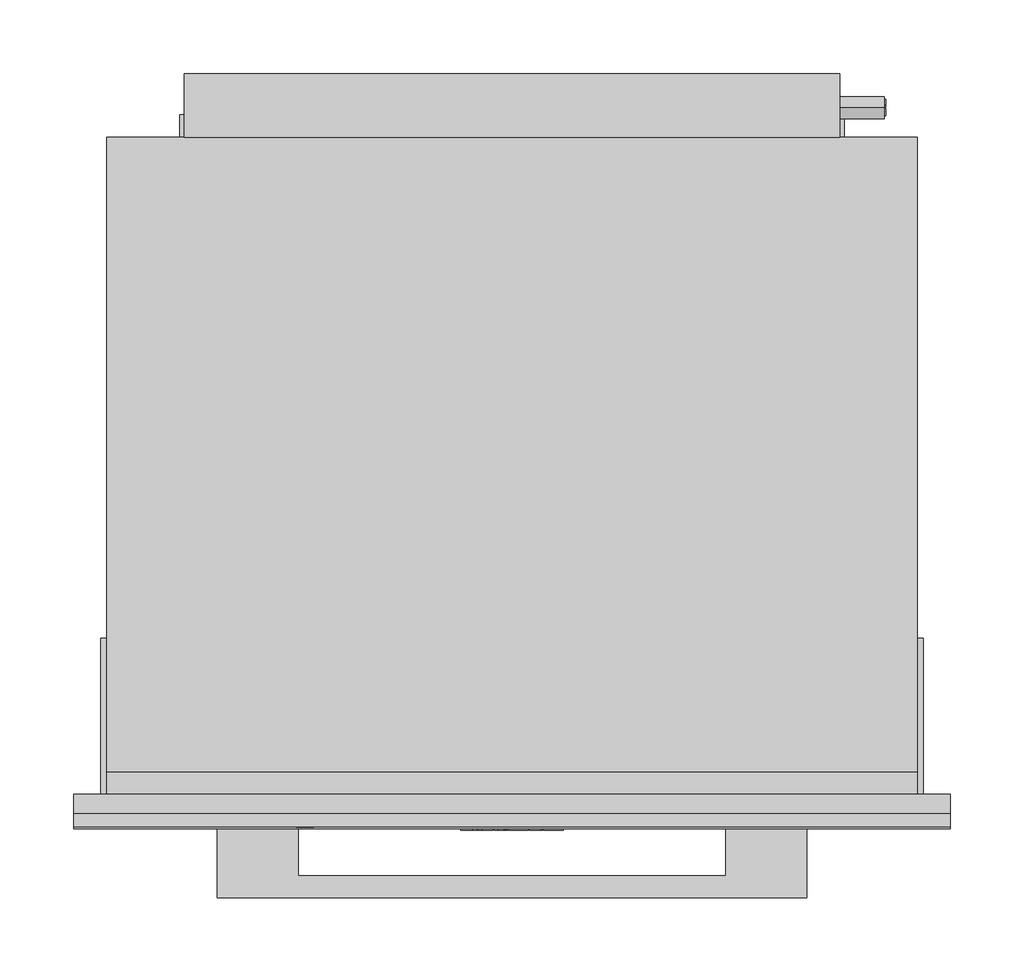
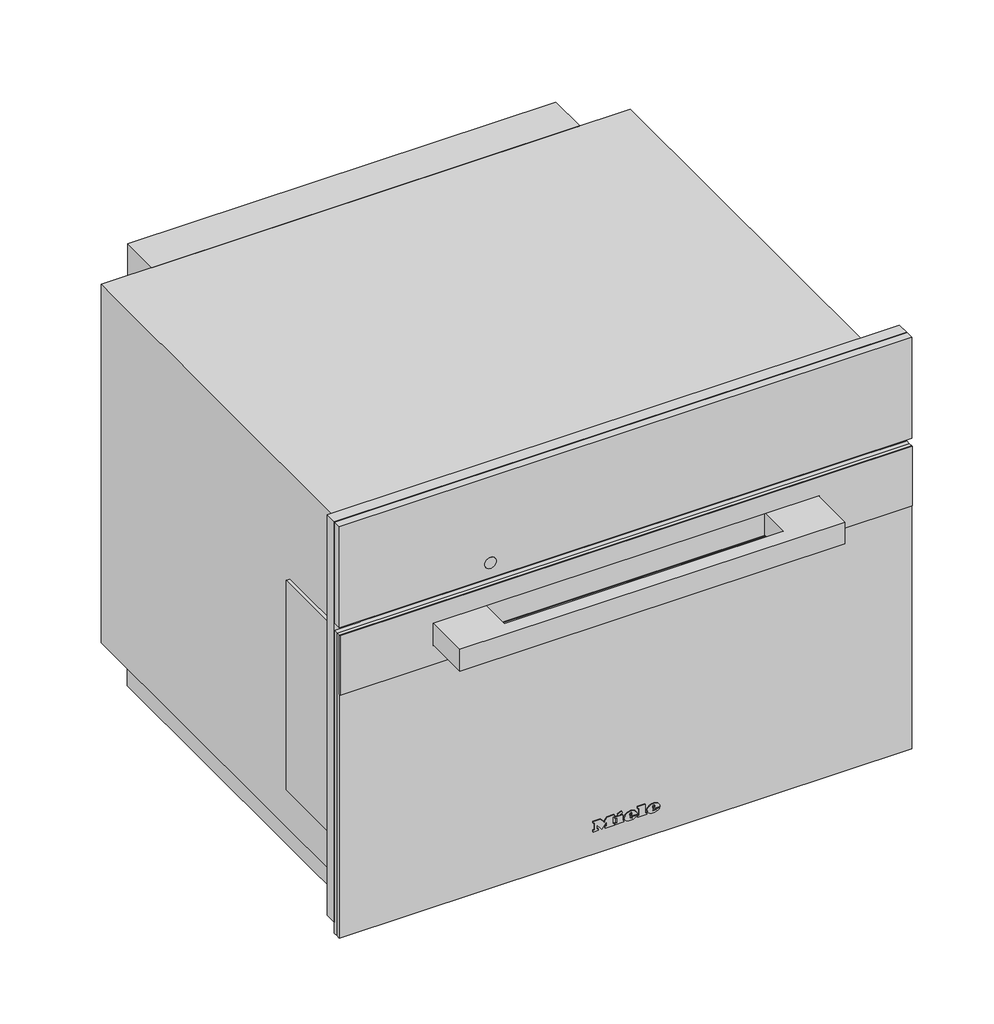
# Not in any storey: 1 proxy.
"""IFC4 building model written with IfcOpenShell, lengths in millimetres."""

import ifcopenshell
import ifcopenshell.guid

model = None  # the IFC model being written
_history = None  # IfcOwnerHistory: only IFC2X3 demands one
_inside = {}  # id of a spatial element -> (the spatial element, [elements in it])
_under = {}  # id of a project, library or spatial element -> (it, [spatial elements below it])
_declared = {}  # id of a project -> (the project, [libraries it declares])
_typed = {}  # id of a type object -> (the type object, [elements of that type])
_made_of = {}  # id of a material, layer set ... -> (it, [elements and type objects made of it])


def new_model(schema):
    """Start an empty IFC model of exactly this schema.

    Asked for "IFC4X3", IfcOpenShell would pick the latest addendum, in which some entities
    have other attributes; the version numbers below select the first issue.
    IFC2X3 requires an IfcOwnerHistory on every rooted entity: one is made here for all.
    """
    global model, _history
    if schema == "IFC4X3":
        model = ifcopenshell.file(schema_version=(4, 3, 0, 0))
    else:
        model = ifcopenshell.file(schema=schema)
    _inside.clear()
    _under.clear()
    _declared.clear()
    _typed.clear()
    _made_of.clear()
    _history = None
    if model.schema == "IFC2X3":
        org = make("IfcOrganization", Name="unknown")
        user = make(
            "IfcPersonAndOrganization",
            ThePerson=make("IfcPerson", FamilyName="unknown"),
            TheOrganization=org,
        )
        app = make(
            "IfcApplication",
            ApplicationDeveloper=org,
            Version="unknown",
            ApplicationFullName="unknown",
            ApplicationIdentifier="unknown",
        )
        _history = make(
            "IfcOwnerHistory",
            OwningUser=user,
            OwningApplication=app,
            ChangeAction="ADDED",
            CreationDate=0,
        )
    return model


def make(cls, **values):
    """One entity of the class cls with the attributes given. An attribute that is None is left unset."""
    return model.create_entity(
        cls, **{name: value for name, value in values.items() if value is not None}
    )


def rooted(cls, **values):
    """An entity with a GlobalId (a new one), such as an element, a storey or a relation."""
    return make(cls, GlobalId=ifcopenshell.guid.new(), OwnerHistory=_history, **values)


def si_unit(unit_type, name, prefix=None):
    """IfcSIUnit, for example si_unit("LENGTHUNIT", "METRE", prefix="MILLI")."""
    return make("IfcSIUnit", UnitType=unit_type, Prefix=prefix, Name=name)


def assignment(units):
    """IfcUnitAssignment: the units of a project."""
    return None if units is None else make("IfcUnitAssignment", Units=units)


def point(xyz):
    """IfcCartesianPoint."""
    return None if xyz is None else make("IfcCartesianPoint", Coordinates=xyz)


def direction(xyz):
    """IfcDirection."""
    return None if xyz is None else make("IfcDirection", DirectionRatios=xyz)


def frame(location, z_axis=None, x_axis=None):
    """IfcAxis2Placement3D, a coordinate frame: its origin and axes. An axis left out is left unset."""
    return make(
        "IfcAxis2Placement3D",
        Location=point(location),
        Axis=direction(z_axis),
        RefDirection=direction(x_axis),
    )


def frame_2d(location, x_axis=None):
    """IfcAxis2Placement2D, a coordinate frame in the plane: its origin and x axis."""
    return make(
        "IfcAxis2Placement2D", Location=point(location), RefDirection=direction(x_axis)
    )


def origin():
    """The frame at (0, 0, 0) with its axes left unset."""
    return frame((0.0, 0.0, 0.0))


def origin_with_axes():
    """The frame at (0, 0, 0) with the z axis (0, 0, 1) and the x axis (1, 0, 0) written out."""
    return frame((0.0, 0.0, 0.0), z_axis=(0.0, 0.0, 1.0), x_axis=(1.0, 0.0, 0.0))


def place(relative_to, where):
    """IfcLocalPlacement: puts the frame where relative to a parent placement (None: the world)."""
    return make(
        "IfcLocalPlacement", PlacementRelTo=relative_to, RelativePlacement=where
    )


def context(
    kind, dimensions, precision=None, world=None, true_north=None, identifier=None
):
    """IfcGeometricRepresentationContext, for example the 3D "Model" context."""
    return make(
        "IfcGeometricRepresentationContext",
        ContextIdentifier=identifier,
        ContextType=kind,
        CoordinateSpaceDimension=dimensions,
        Precision=precision,
        WorldCoordinateSystem=world,
        TrueNorth=true_north,
    )


def project(units=None, contexts=None):
    """IfcProject with its units and contexts."""
    return rooted(
        "IfcProject",
        Name="project",
        RepresentationContexts=contexts,
        UnitsInContext=assignment(units),
    )


def spatial(cls, under=None, at=None, **own):
    """A site, building, storey or space (cls), placed at a placement, below another one or the project."""
    s = rooted(cls, ObjectPlacement=at, **own)
    if under is not None:
        _under.setdefault(under.id(), (under, []))[1].append(s)
    return s


def polyline(points):
    """IfcPolyline through the points."""
    return make("IfcPolyline", Points=[point(p) for p in points])


def circle_curve(where, radius):
    """IfcCircle in the frame where."""
    return make("IfcCircle", Position=where, Radius=radius)


def ellipse_curve(where, semi_axis1, semi_axis2):
    """IfcEllipse in the frame where."""
    return make(
        "IfcEllipse", Position=where, SemiAxis1=semi_axis1, SemiAxis2=semi_axis2
    )


def trimmed(basis, trim1, trim2, sense, master):
    """IfcTrimmedCurve: the piece of a basis curve between two trims."""
    return make(
        "IfcTrimmedCurve",
        BasisCurve=basis,
        Trim1=trim1,
        Trim2=trim2,
        SenseAgreement=sense,
        MasterRepresentation=master,
    )


def segment(curve, same_sense, transition):
    """IfcCompositeCurveSegment."""
    return make(
        "IfcCompositeCurveSegment",
        Transition=transition,
        SameSense=same_sense,
        ParentCurve=curve,
    )


def composite_curve(segments, self_intersect=None):
    """IfcCompositeCurve: segments joined end to end."""
    return make("IfcCompositeCurve", Segments=segments, SelfIntersect=self_intersect)


def outline(outer, holes=None, kind="AREA"):
    """IfcArbitraryClosedProfileDef: a profile drawn as a closed curve; with holes, ...WithVoids."""
    if holes is None:
        return make("IfcArbitraryClosedProfileDef", ProfileType=kind, OuterCurve=outer)
    return make(
        "IfcArbitraryProfileDefWithVoids",
        ProfileType=kind,
        OuterCurve=outer,
        InnerCurves=holes,
    )


def extrude(swept, where, along, depth):
    """IfcExtrudedAreaSolid: the profile swept, set in the frame where, extruded along a direction by depth."""
    return make(
        "IfcExtrudedAreaSolid",
        SweptArea=swept,
        Position=where,
        ExtrudedDirection=direction(along),
        Depth=depth,
    )


def faces_of(points, faces, orient=None, outer=None):
    """IfcFace entities. A face is a list of loops; a loop is a list of indices into points, from 0.

    orient and outer hold one flag for each loop. By default every Orientation is true, the
    first loop of a face is its IfcFaceOuterBound and the others are IfcFaceBound.
    """
    made = []
    for i, loops in enumerate(faces):
        bounds = []
        for j, loop in enumerate(loops):
            is_outer = j == 0 if outer is None else outer[i][j]
            bounds.append(
                make(
                    "IfcFaceOuterBound" if is_outer else "IfcFaceBound",
                    Bound=make("IfcPolyLoop", Polygon=[points[k] for k in loop]),
                    Orientation=True if orient is None else orient[i][j],
                )
            )
        made.append(make("IfcFace", Bounds=bounds))
    return made


def faceted_brep(points, faces, orient=None, outer=None, voids=None):
    """IfcFacetedBrep: a solid bounded by flat faces; with voids (closed shells), ...WithVoids."""
    shared = [point(p) for p in points]
    hull = make("IfcClosedShell", CfsFaces=faces_of(shared, faces, orient, outer))
    if voids is None:
        return make("IfcFacetedBrep", Outer=hull)
    return make(
        "IfcFacetedBrepWithVoids",
        Outer=hull,
        Voids=[
            make(cls, CfsFaces=faces_of(shared, fs, o, b)) for cls, fs, o, b in voids
        ],
    )


def shape(context_of_items, identifier, shape_type, items):
    """IfcShapeRepresentation: the items that make up one representation, for example the "Body"."""
    return make(
        "IfcShapeRepresentation",
        ContextOfItems=context_of_items,
        RepresentationIdentifier=identifier,
        RepresentationType=shape_type,
        Items=items,
    )


def source(mapping_origin, context_of_items, identifier, shape_type, items):
    """IfcRepresentationMap: a shape defined once, which mapped items show again and again."""
    return make(
        "IfcRepresentationMap",
        MappingOrigin=mapping_origin,
        MappedRepresentation=shape(context_of_items, identifier, shape_type, items),
    )


def transform(
    local_origin,
    x_axis=None,
    y_axis=None,
    z_axis=None,
    scale=None,
    scale2=None,
    scale3=None,
    uniform=True,
):
    """IfcCartesianTransformationOperator3D, or its non-uniform kind. x_axis, y_axis, z_axis: its Axis1, 2, 3."""
    if uniform:
        return make(
            "IfcCartesianTransformationOperator3D",
            Axis1=direction(x_axis),
            Axis2=direction(y_axis),
            LocalOrigin=point(local_origin),
            Scale=scale,
            Axis3=direction(z_axis),
        )
    return make(
        "IfcCartesianTransformationOperator3DnonUniform",
        Axis1=direction(x_axis),
        Axis2=direction(y_axis),
        LocalOrigin=point(local_origin),
        Scale=scale,
        Axis3=direction(z_axis),
        Scale2=scale2,
        Scale3=scale3,
    )


def mapped(mapping_source, mapping_target):
    """IfcMappedItem: shows the shape of a source again, moved by a transform."""
    return make(
        "IfcMappedItem", MappingSource=mapping_source, MappingTarget=mapping_target
    )


def made_of(thing, what):
    """Note that an element or type object is made of a material, layer set ...; save() writes the relation."""
    if what is not None:
        _made_of.setdefault(what.id(), (what, []))[1].append(thing)
    return thing


def element(
    cls,
    number,
    at=None,
    inside=None,
    cuts=None,
    type_object=None,
    material=None,
    context=None,
    identifier="Body",
    shape_type=None,
    held_by="IfcProductDefinitionShape",
    body=None,
    shapes=None,
    **own,
):
    """One element of the class cls, such as IfcWall. Its Tag is "e" and its number.

    at: its placement. inside: the storey or other place that contains it. cuts: it is an
    opening in that element (IfcRelVoidsElement). A single representation is given by context,
    identifier, shape_type and body (its items); several are given by shapes. held_by: the class
    of the entity that holds the representations. save() writes the other relations.
    """
    e = rooted(cls, Tag="e%d" % number, ObjectPlacement=at, **own)
    if body is not None:
        shapes = [shape(context, identifier, shape_type, body)]
    if shapes is not None:
        e.Representation = make(held_by, Representations=shapes)
    if inside is not None:
        _inside.setdefault(inside.id(), (inside, []))[1].append(e)
    if cuts is not None:
        rooted(
            "IfcRelVoidsElement", RelatingBuildingElement=cuts, RelatedOpeningElement=e
        )
    if type_object is not None:
        _typed.setdefault(type_object.id(), (type_object, []))[1].append(e)
    return made_of(e, material)


def aggregate(whole, parts):
    """IfcRelAggregates: a whole, such as a stair, and the parts it consists of."""
    return rooted("IfcRelAggregates", RelatingObject=whole, RelatedObjects=parts)


def save(model, path):
    """Write the relations noted so far, then the file.

    IfcRelAggregates (storeys below a building ...), IfcRelContainedInSpatialStructure (elements
    in a storey), IfcRelDefinesByType, IfcRelAssociatesMaterial and IfcRelDeclares: one each for
    every whole, place, type object, material and project.
    """
    for whole, parts in _under.values():
        aggregate(whole, parts)
    for where, things in _inside.values():
        rooted(
            "IfcRelContainedInSpatialStructure",
            RelatedElements=things,
            RelatingStructure=where,
        )
    for kind, things in _typed.values():
        rooted("IfcRelDefinesByType", RelatedObjects=things, RelatingType=kind)
    for what, things in _made_of.values():
        rooted("IfcRelAssociatesMaterial", RelatedObjects=things, RelatingMaterial=what)
    for by, libraries in _declared.values():
        rooted("IfcRelDeclares", RelatingContext=by, RelatedDefinitions=libraries)
    model.write(path)


def plane_surface(at):
    """IfcPlane: the flat surface through the origin of the frame at, square to its z axis."""
    return make("IfcPlane", Position=at)


def cylinder_surface(at, radius):
    """IfcCylindricalSurface: all points at the distance radius from the z axis of the frame at."""
    return make("IfcCylindricalSurface", Position=at, Radius=radius)


def revolved_surface(curve, axis_point, axis_direction):
    """IfcSurfaceOfRevolution: the curve turned about the line through axis_point along axis_direction."""
    return make(
        "IfcSurfaceOfRevolution",
        SweptCurve=make("IfcArbitraryOpenProfileDef", ProfileType="CURVE", Curve=curve),
        AxisPosition=make("IfcAxis1Placement", Location=point(axis_point), Axis=direction(axis_direction)),
    )


def extruded_surface(curve, direction_of_extrusion, depth):
    """IfcSurfaceOfLinearExtrusion: the curve pushed along a direction by depth."""
    return make(
        "IfcSurfaceOfLinearExtrusion",
        SweptCurve=make("IfcArbitraryOpenProfileDef", ProfileType="CURVE", Curve=curve),
        ExtrudedDirection=direction(direction_of_extrusion),
        Depth=depth,
    )


def advanced_brep(points, edges, surfaces, faces):
    """IfcAdvancedBrep: a solid bounded by faces that lie on surfaces and meet in shared edges.

    An edge is (start, end): straight between two places in points (the first is 0);
    or (start, end, curve); or (start, end, curve, False) where it runs against its curve.
    A face is (place in surfaces, loops), or (place, loops, False) where it looks against
    its surface's normal. A loop lists edges by number (the first is 1), with a minus sign
    where the edge is run from its end to its start. The first loop is the outer one.
    """
    corners = [point(p) for p in points]
    vertices = [make("IfcVertexPoint", VertexGeometry=c) for c in corners]
    made = []
    for start, end, *more in edges:
        made.append(
            make(
                "IfcEdgeCurve",
                EdgeStart=vertices[start],
                EdgeEnd=vertices[end],
                EdgeGeometry=more[0] if more else make("IfcPolyline", Points=[corners[start], corners[end]]),
                SameSense=more[1] if len(more) > 1 else True,
            )
        )
    hull = []
    for where, loops, *sense in faces:
        bounds = []
        for j, loop in enumerate(loops):
            ring = [make("IfcOrientedEdge", EdgeElement=made[abs(k) - 1], Orientation=k > 0) for k in loop]
            bounds.append(
                make(
                    "IfcFaceOuterBound" if j == 0 else "IfcFaceBound",
                    Bound=make("IfcEdgeLoop", EdgeList=ring),
                    Orientation=True,
                )
            )
        hull.append(make("IfcAdvancedFace", Bounds=bounds, FaceSurface=surfaces[where], SameSense=sense[0] if sense else True))
    return make("IfcAdvancedBrep", Outer=make("IfcClosedShell", CfsFaces=hull))


def specialty_equipment_d85db7c3(model_context):
    return source(origin(), model_context, "Body", "SolidModel", [
        extrude(outline(polyline([(456.0, 297.5), (456.0, -297.5), (16.0, -297.5), (16.0, 297.5), (456.0, 297.5)]), holes=[polyline([(347.0, -270.0), (347.0, 270.0), (40.0, 270.0), (40.0, -270.0), (347.0, -270.0)])]), frame((0.0, -13.0, 0.0), z_axis=(0.0, 1.0, 0.0), x_axis=(0.0, 0.0, 1.0)), (0.0, 0.0, 1.0), 13.0),
        extrude(outline(composite_curve([segment(trimmed(circle_curve(frame_2d((251.5, 37.5)), 10.5), [point((251.5, 27.0))], [point((251.5, 48.0))], False, "CARTESIAN"), True, "CONTINUOUS"), segment(trimmed(circle_curve(frame_2d((251.5, 37.5)), 10.5), [point((251.5, 48.0))], [point((251.5, 27.0))], False, "CARTESIAN"), True, "CONTINUOUS")], self_intersect=False)), origin_with_axes(), (0.0, 0.0, 1.0), 3.0),
        extrude(outline(composite_curve([segment(trimmed(circle_curve(frame_2d((251.5, 397.5)), 10.5), [point((251.5, 387.0))], [point((251.5, 408.0))], False, "CARTESIAN"), True, "CONTINUOUS"), segment(trimmed(circle_curve(frame_2d((251.5, 397.5)), 10.5), [point((251.5, 408.0))], [point((251.5, 387.0))], False, "CARTESIAN"), True, "CONTINUOUS")], self_intersect=False)), origin_with_axes(), (0.0, 0.0, 1.0), 3.0),
        extrude(outline(composite_curve([segment(trimmed(circle_curve(frame_2d((-251.5, 397.5)), 10.5), [point((-251.5, 387.0))], [point((-251.5, 408.0))], False, "CARTESIAN"), True, "CONTINUOUS"), segment(trimmed(circle_curve(frame_2d((-251.5, 397.5)), 10.5), [point((-251.5, 408.0))], [point((-251.5, 387.0))], False, "CARTESIAN"), True, "CONTINUOUS")], self_intersect=False)), origin_with_axes(), (0.0, 0.0, 1.0), 3.0),
        extrude(outline(composite_curve([segment(trimmed(circle_curve(frame_2d((-251.5, 37.5)), 10.5), [point((-251.5, 27.0))], [point((-251.5, 48.0))], False, "CARTESIAN"), True, "CONTINUOUS"), segment(trimmed(circle_curve(frame_2d((-251.5, 37.5)), 10.5), [point((-251.5, 48.0))], [point((-251.5, 27.0))], False, "CARTESIAN"), True, "CONTINUOUS")], self_intersect=False)), origin_with_axes(), (0.0, 0.0, 1.0), 3.0),
        extrude(outline(polyline([(115.0, 330.0), (115.0, 130.0), (-115.0, 130.0), (-115.0, 330.0), (115.0, 330.0)])), frame((0.0, 0.0, 11.0), z_axis=(0.0, 0.0, 1.0), x_axis=(1.0, 0.0, 0.0)), (0.0, 0.0, 1.0), 26.0),
        extrude(outline(composite_curve([segment(trimmed(circle_curve(frame_2d((466.0, 369.0)), 7.5), [point((466.0, 361.5))], [point((466.0, 376.5))], False, "CARTESIAN"), True, "CONTINUOUS"), segment(trimmed(circle_curve(frame_2d((466.0, 369.0)), 7.5), [point((466.0, 376.5))], [point((466.0, 361.5))], False, "CARTESIAN"), True, "CONTINUOUS")], self_intersect=False)), frame((222.5, 0.0, 0.0), z_axis=(1.0, 0.0, 0.0), x_axis=(0.0, 1.0, 0.0)), (0.0, 0.0, 1.0), 30.0),
        extrude(outline(polyline([(-222.5, 489.0), (222.5, 489.0), (222.5, 446.0), (-222.5, 446.0), (-222.5, 489.0)])), frame((0.0, 0.0, 316.0), z_axis=(0.0, 0.0, 1.0), x_axis=(1.0, 0.0, 0.0)), (0.0, 0.0, 1.0), 115.0),
        extrude(outline(polyline([(275.0, 0.0), (275.0, 106.0), (279.0, 106.0), (279.0, 0.0), (275.0, 0.0)])), frame((0.0, 0.0, 83.2054686), z_axis=(0.0, 0.0, 1.0), x_axis=(1.0, 0.0, 0.0)), (0.0, 0.0, 1.0), 230.0),
        extrude(outline(polyline([(-279.0, 0.0), (-279.0, 106.0), (-275.0, 106.0), (-275.0, 0.0), (-279.0, 0.0)])), frame((0.0, 0.0, 83.2054686), z_axis=(0.0, 0.0, 1.0), x_axis=(1.0, 0.0, 0.0)), (0.0, 0.0, 1.0), 230.0),
        extrude(outline(polyline([(460.5132233, 374.0), (465.5132233, 374.0), (465.5132233, 373.0), (461.5132233, 373.0), (461.5132233, 369.5), (464.5132233, 369.5), (464.5132233, 368.5), (461.5132233, 368.5), (461.5132233, 365.0), (465.5132233, 365.0), (465.5132233, 364.0), (460.5132233, 364.0), (460.5132233, 374.0)])), frame((252.5, 0.0, 0.0), z_axis=(1.0, 0.0, 0.0), x_axis=(0.0, 1.0, 0.0)), (0.0, 0.0, 1.0), 1.0),
        extrude(outline(polyline([(466.5132233, 364.0), (466.5132233, 374.0), (467.5176929, 374.0), (467.5176929, 365.0), (471.5132233, 365.0), (471.5132233, 364.0), (466.5132233, 364.0)])), frame((252.5, 0.0, 0.0), z_axis=(1.0, 0.0, 0.0), x_axis=(0.0, 1.0, 0.0)), (0.0, 0.0, 1.0), 1.0),
        extrude(outline(polyline([(289.0, -225.5), (58.0, -225.5), (58.0, 0.0), (58.0, 225.5), (289.0, 225.5), (289.0, 0.0), (289.0, -225.5)])), frame((0.0, 446.0, 0.0), z_axis=(0.0, 1.0, 0.0), x_axis=(0.0, 0.0, 1.0)), (0.0, 0.0, 1.0), 15.0),
        faceted_brep([(-275.0, 446.0, 431.0), (275.0, 446.0, 431.0), (275.0, 446.0, 37.0), (-275.0, 446.0, 37.0), (-275.0, 0.0, 37.0), (-264.0, 0.0, 37.0), (-264.0, 0.0, 3.0), (-239.0, 0.0, 3.0), (-239.0, 0.0, 37.0), (239.0, 0.0, 37.0), (239.0, 0.0, 3.0), (264.0, 0.0, 3.0), (264.0, 0.0, 37.0), (275.0, 0.0, 37.0), (275.0, 0.0, 438.0), (-275.0, 0.0, 438.0), (-270.0, 0.0, 347.0), (270.0, 0.0, 347.0), (270.0, 0.0, 40.0), (-270.0, 0.0, 40.0), (-275.0, 15.0, 431.0), (275.0, 15.0, 431.0), (-275.0, 15.0, 438.0), (275.0, 15.0, 438.0), (270.0, 16.0, 347.0), (-270.0, 16.0, 347.0), (-270.0, 16.0, 40.0), (270.0, 16.0, 40.0), (225.0, 16.0, 303.0), (225.0, 16.0, 71.0), (-225.0, 16.0, 71.0), (-225.0, 16.0, 303.0), (225.0, 444.0, 303.0), (-225.0, 444.0, 303.0), (-225.0, 444.0, 71.0), (225.0, 444.0, 71.0), (-239.0, 418.0, 37.0), (-264.0, 418.0, 37.0), (264.0, 418.0, 37.0), (239.0, 418.0, 37.0), (-239.0, 418.0, 3.0), (239.0, 418.0, 3.0), (264.0, 418.0, 3.0), (-264.0, 418.0, 3.0)], [[[0, 1, 2, 3]], [[4, 5, 6, 7, 8, 9, 10, 11, 12, 13, 14, 15], [16, 17, 18, 19]], [[1, 0, 20, 21]], [[0, 3, 4, 15, 22, 20]], [[2, 1, 21, 23, 14, 13]], [[24, 25, 26, 27], [28, 29, 30, 31]], [[25, 24, 17, 16]], [[26, 25, 16, 19]], [[27, 26, 19, 18]], [[24, 27, 18, 17]], [[32, 33, 34, 35]], [[32, 35, 29, 28]], [[35, 34, 30, 29]], [[34, 33, 31, 30]], [[33, 32, 28, 31]], [[14, 23, 22, 15]], [[23, 21, 20, 22]], [[36, 37, 5, 4, 3, 2, 13, 12, 38, 39, 9, 8]], [[36, 8, 7, 40]], [[9, 39, 41, 10]], [[39, 38, 42, 41]], [[38, 12, 11, 42]], [[5, 37, 43, 6]], [[37, 36, 40, 43]], [[7, 6, 43, 40]], [[11, 10, 41, 42]]]),
        advanced_brep(
        [(27.088, -24.3, 32.7018), (27.088, -24.3, 33.8532), (34.7146, -24.3, 33.8532), (21.445, -24.3, 33.8532), (24.58, -24.3, 30.0), (34.5208, -24.3, 32.7018), (31.078, -24.3, 32.7018), (28.3648, -24.3, 31.425), (27.088, -24.3, 35.3124), (27.088, -24.3, 36.555), (29.0374, -24.3, 36.555), (29.0374, -24.3, 35.3124), (27.088, -23.3, 32.7018), (28.3648, -23.3, 31.425), (31.078, -23.3, 32.7018), (34.5208, -23.3, 32.7018), (24.58, -23.3, 30.0), (21.445, -23.3, 33.8532), (34.7146, -23.3, 33.8532), (27.088, -23.3, 33.8532), (27.088, -23.3, 35.3124), (29.0374, -23.3, 35.3124), (29.0374, -23.3, 36.555), (27.088, -23.3, 36.555)],
        [
            (0, 1),
            (1, 2),
            (2, 3, ellipse_curve(frame((28.0798, -24.3, 33.8532), z_axis=(0.0, -1.0, 0.0), x_axis=(-1.0, 0.0, 0.0)), 6.6348, 5.4834)),
            (3, 4, circle_curve(frame((25.8568622, -24.3, 34.2408), z_axis=(0.0, -1.0, 0.0), x_axis=(0.0, 0.0, -1.0)), 4.4288556)),
            (4, 5, circle_curve(frame((27.9469808, -24.3, 37.2504), z_axis=(0.0, -1.0, 0.0), x_axis=(0.0, 0.0, -1.0)), 7.9940516)),
            (5, 6),
            (6, 7, circle_curve(frame((28.9220588, -24.3, 33.762), z_axis=(0.0, 1.0, 0.0), x_axis=(0.0, 0.0, -1.0)), 2.4025208)),
            (7, 0, circle_curve(frame((28.3648, -24.3, 32.7018), z_axis=(0.0, 1.0, 0.0), x_axis=(0.0, 0.0, -1.0)), 1.2768)),
            (8, 9),
            (9, 10, circle_curve(frame((28.0627, -24.3, 36.555), z_axis=(0.0, 1.0, 0.0), x_axis=(0.0, 0.0, -1.0)), 0.9747)),
            (10, 11),
            (11, 8),
            (12, 13, circle_curve(frame((28.3648, -23.3, 32.7018), z_axis=(0.0, -1.0, 0.0), x_axis=(0.0, 0.0, -1.0)), 1.2768)),
            (13, 14, circle_curve(frame((28.9220588, -23.3, 33.762), z_axis=(0.0, -1.0, 0.0), x_axis=(0.0, 0.0, -1.0)), 2.4025208)),
            (14, 15),
            (15, 16, circle_curve(frame((27.9469808, -23.3, 37.2504), z_axis=(0.0, 1.0, 0.0), x_axis=(0.0, 0.0, -1.0)), 7.9940516)),
            (16, 17, circle_curve(frame((25.8568622, -23.3, 34.2408), z_axis=(0.0, 1.0, 0.0), x_axis=(0.0, 0.0, -1.0)), 4.4288556)),
            (17, 18, ellipse_curve(frame((28.0798, -23.3, 33.8532), z_axis=(0.0, 1.0, 0.0), x_axis=(-1.0, 0.0, 0.0)), 6.6348, 5.4834)),
            (18, 19),
            (19, 12),
            (20, 21),
            (21, 22),
            (22, 23, circle_curve(frame((28.0627, -23.3, 36.555), z_axis=(0.0, -1.0, 0.0), x_axis=(0.0, 0.0, -1.0)), 0.9747)),
            (23, 20),
            (0, 12),
            (19, 1),
            (18, 2),
            (5, 15),
            (14, 6),
            (17, 3),
            (13, 7),
            (16, 4),
            (8, 20),
            (23, 9),
            (22, 10),
            (21, 11),
        ],
        [
            plane_surface(frame((27.088, -24.3, 33.8532), z_axis=(0.0, -1.0, 0.0), x_axis=(0.0, 0.0, 1.0))),
            plane_surface(frame((27.088, -23.3, 33.8532), z_axis=(0.0, 1.0, 0.0), x_axis=(0.0, 0.0, -1.0))),
            plane_surface(frame((27.088, -24.3, 32.7018), z_axis=(1.0, 0.0, 0.0), x_axis=(0.0, 1.0, 0.0))),
            plane_surface(frame((27.088, -24.3, 33.8532), z_axis=(0.0, 0.0, -1.0), x_axis=(0.0, 1.0, 0.0))),
            plane_surface(frame((34.5208, -24.3, 32.7018), z_axis=(0.0, 0.0, 1.0), x_axis=(0.0, 1.0, 0.0))),
            extruded_surface(trimmed(ellipse_curve(frame((28.0798, -22.3, 33.8532), z_axis=(0.0, -1.0, 0.0), x_axis=(-1.0, 0.0, 0.0)), 6.6348, 5.4834), [point((34.7146, -22.3, 33.8532))], [point((21.445, -22.3, 33.8532))], True, "CARTESIAN"), (0.0, -1.0, 0.0), 1.0),
            revolved_surface(polyline([(28.9220588, -23.3, 31.3594792), (28.9220588, -24.3, 31.3594792)]), (28.9220588, -23.3, 33.762), (0.0, 1.0, 0.0)),
            revolved_surface(polyline([(28.3648, -23.3, 31.424999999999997), (28.3648, -24.3, 31.424999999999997)]), (28.3648, -23.3, 32.7018), (0.0, 1.0, 0.0)),
            cylinder_surface(frame((25.8568622, -23.3, 34.2408), z_axis=(0.0, -1.0, 0.0), x_axis=(0.0, 0.0, -1.0)), 4.4288556),
            cylinder_surface(frame((27.9469808, -23.3, 37.2504), z_axis=(0.0, -1.0, 0.0), x_axis=(0.0, 0.0, -1.0)), 7.9940516),
            plane_surface(frame((27.088, -24.3, 35.3124), z_axis=(1.0, 0.0, 0.0), x_axis=(0.0, 1.0, 0.0))),
            revolved_surface(polyline([(28.0627, -23.3, 35.5803), (28.0627, -24.3, 35.5803)]), (28.0627, -23.3, 36.555), (0.0, 1.0, 0.0)),
            plane_surface(frame((29.0374, -24.3, 36.555), z_axis=(-1.0, 0.0, 0.0), x_axis=(0.0, 1.0, 0.0))),
            plane_surface(frame((29.0374, -24.3, 35.3124), z_axis=(0.0, 0.0, 1.0), x_axis=(0.0, 1.0, 0.0))),
        ],
        [
            (0, [[1, 2, 3, 4, 5, 6, 7, 8], [9, 10, 11, 12]]),
            (1, [[13, 14, 15, 16, 17, 18, 19, 20], [21, 22, 23, 24]]),
            (2, [[-1, 25, -20, 26]]),
            (3, [[-2, -26, -19, 27]]),
            (4, [[-6, 28, -15, 29]]),
            (5, [[-3, -27, -18, 30]]),
            (6, [[-7, -29, -14, 31]]),
            (7, [[-8, -31, -13, -25]]),
            (8, [[-4, -30, -17, 32]]),
            (9, [[-5, -32, -16, -28]]),
            (10, [[-9, 33, -24, 34]]),
            (11, [[-10, -34, -23, 35]]),
            (12, [[-11, -35, -22, 36]]),
            (13, [[-12, -36, -21, -33]]),
        ],
    ),
        advanced_brep(
        [(3.2962, -24.3, 32.7018), (3.2962, -24.3, 33.8532), (10.9228, -24.3, 33.8532), (-2.3468, -24.3, 33.8532), (0.7882, -24.3, 30.0), (10.729, -24.3, 32.7018), (7.2862, -24.3, 32.7018), (4.573, -24.3, 31.425), (3.2962, -24.3, 35.3124), (3.2962, -24.3, 36.555), (5.2456, -24.3, 36.555), (5.2456, -24.3, 35.3124), (3.2962, -23.3, 32.7018), (4.573, -23.3, 31.425), (7.2862, -23.3, 32.7018), (10.729, -23.3, 32.7018), (0.7882, -23.3, 30.0), (-2.3468, -23.3, 33.8532), (10.9228, -23.3, 33.8532), (3.2962, -23.3, 33.8532), (3.2962, -23.3, 35.3124), (5.2456, -23.3, 35.3124), (5.2456, -23.3, 36.555), (3.2962, -23.3, 36.555)],
        [
            (0, 1),
            (1, 2),
            (2, 3, ellipse_curve(frame((4.288, -24.3, 33.8532), z_axis=(0.0, -1.0, 0.0), x_axis=(-1.0, 0.0, 0.0)), 6.6348, 5.4834)),
            (3, 4, circle_curve(frame((2.0650622, -24.3, 34.2408), z_axis=(0.0, -1.0, 0.0), x_axis=(0.0, 0.0, -1.0)), 4.4288556)),
            (4, 5, circle_curve(frame((4.1551808, -24.3, 37.2504), z_axis=(0.0, -1.0, 0.0), x_axis=(0.0, 0.0, -1.0)), 7.9940516)),
            (5, 6),
            (6, 7, circle_curve(frame((5.1302588, -24.3, 33.762), z_axis=(0.0, 1.0, 0.0), x_axis=(0.0, 0.0, -1.0)), 2.4025208)),
            (7, 0, circle_curve(frame((4.573, -24.3, 32.7018), z_axis=(0.0, 1.0, 0.0), x_axis=(0.0, 0.0, -1.0)), 1.2768)),
            (8, 9),
            (9, 10, circle_curve(frame((4.2709, -24.3, 36.555), z_axis=(0.0, 1.0, 0.0), x_axis=(0.0, 0.0, -1.0)), 0.9747)),
            (10, 11),
            (11, 8),
            (12, 13, circle_curve(frame((4.573, -23.3, 32.7018), z_axis=(0.0, -1.0, 0.0), x_axis=(0.0, 0.0, -1.0)), 1.2768)),
            (13, 14, circle_curve(frame((5.1302588, -23.3, 33.762), z_axis=(0.0, -1.0, 0.0), x_axis=(0.0, 0.0, -1.0)), 2.4025208)),
            (14, 15),
            (15, 16, circle_curve(frame((4.1551808, -23.3, 37.2504), z_axis=(0.0, 1.0, 0.0), x_axis=(0.0, 0.0, -1.0)), 7.9940516)),
            (16, 17, circle_curve(frame((2.0650622, -23.3, 34.2408), z_axis=(0.0, 1.0, 0.0), x_axis=(0.0, 0.0, -1.0)), 4.4288556)),
            (17, 18, ellipse_curve(frame((4.288, -23.3, 33.8532), z_axis=(0.0, 1.0, 0.0), x_axis=(-1.0, 0.0, 0.0)), 6.6348, 5.4834)),
            (18, 19),
            (19, 12),
            (20, 21),
            (21, 22),
            (22, 23, circle_curve(frame((4.2709, -23.3, 36.555), z_axis=(0.0, -1.0, 0.0), x_axis=(0.0, 0.0, -1.0)), 0.9747)),
            (23, 20),
            (0, 12),
            (19, 1),
            (18, 2),
            (5, 15),
            (14, 6),
            (17, 3),
            (13, 7),
            (16, 4),
            (8, 20),
            (23, 9),
            (22, 10),
            (21, 11),
        ],
        [
            plane_surface(frame((3.2962, -24.3, 33.8532), z_axis=(0.0, -1.0, 0.0), x_axis=(0.0, 0.0, 1.0))),
            plane_surface(frame((3.2962, -23.3, 33.8532), z_axis=(0.0, 1.0, 0.0), x_axis=(0.0, 0.0, -1.0))),
            plane_surface(frame((3.2962, -24.3, 32.7018), z_axis=(1.0, 0.0, 0.0), x_axis=(0.0, 1.0, 0.0))),
            plane_surface(frame((3.2962, -24.3, 33.8532), z_axis=(0.0, 0.0, -1.0), x_axis=(0.0, 1.0, 0.0))),
            plane_surface(frame((10.729, -24.3, 32.7018), z_axis=(0.0, 0.0, 1.0), x_axis=(0.0, 1.0, 0.0))),
            extruded_surface(trimmed(ellipse_curve(frame((4.288, -22.3, 33.8532), z_axis=(0.0, -1.0, 0.0), x_axis=(-1.0, 0.0, 0.0)), 6.6348, 5.4834), [point((10.9228, -22.3, 33.8532))], [point((-2.3468, -22.3, 33.8532))], True, "CARTESIAN"), (0.0, -1.0, 0.0), 1.0),
            revolved_surface(polyline([(5.1302588, -23.3, 31.3594792), (5.1302588, -24.3, 31.3594792)]), (5.1302588, -23.3, 33.762), (0.0, 1.0, 0.0)),
            revolved_surface(polyline([(4.573, -23.3, 31.424999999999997), (4.573, -24.3, 31.424999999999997)]), (4.573, -23.3, 32.7018), (0.0, 1.0, 0.0)),
            cylinder_surface(frame((2.0650622, -23.3, 34.2408), z_axis=(0.0, -1.0, 0.0), x_axis=(0.0, 0.0, -1.0)), 4.4288556),
            cylinder_surface(frame((4.1551808, -23.3, 37.2504), z_axis=(0.0, -1.0, 0.0), x_axis=(0.0, 0.0, -1.0)), 7.9940516),
            plane_surface(frame((3.2962, -24.3, 35.3124), z_axis=(1.0, 0.0, 0.0), x_axis=(0.0, 1.0, 0.0))),
            revolved_surface(polyline([(4.2709, -23.3, 35.5803), (4.2709, -24.3, 35.5803)]), (4.2709, -23.3, 36.555), (0.0, 1.0, 0.0)),
            plane_surface(frame((5.2456, -24.3, 36.555), z_axis=(-1.0, 0.0, 0.0), x_axis=(0.0, 1.0, 0.0))),
            plane_surface(frame((5.2456, -24.3, 35.3124), z_axis=(0.0, 0.0, 1.0), x_axis=(0.0, 1.0, 0.0))),
        ],
        [
            (0, [[1, 2, 3, 4, 5, 6, 7, 8], [9, 10, 11, 12]]),
            (1, [[13, 14, 15, 16, 17, 18, 19, 20], [21, 22, 23, 24]]),
            (2, [[-1, 25, -20, 26]]),
            (3, [[-2, -26, -19, 27]]),
            (4, [[-6, 28, -15, 29]]),
            (5, [[-3, -27, -18, 30]]),
            (6, [[-7, -29, -14, 31]]),
            (7, [[-8, -31, -13, -25]]),
            (8, [[-4, -30, -17, 32]]),
            (9, [[-5, -32, -16, -28]]),
            (10, [[-9, 33, -24, 34]]),
            (11, [[-10, -34, -23, 35]]),
            (12, [[-11, -35, -22, 36]]),
            (13, [[-12, -36, -21, -33]]),
        ],
    ),
        extrude(outline(polyline([(40.7274, -9.164), (38.8806, -8.2976), (40.6818, -4.433), (42.5286, -5.288), (40.7274, -9.164)])), frame((0.0, -24.3, 0.0), z_axis=(0.0, 1.0, 0.0), x_axis=(0.0, 0.0, 1.0)), (0.0, 0.0, 1.0), 1.0),
        extrude(outline(polyline([(38.6298, -11.9798), (36.5892, -11.9798), (36.5892, -10.6232), (31.9152, -10.6232), (31.9152, -11.9798), (30.0, -11.9798), (30.0, -2.9852), (31.9152, -2.9852), (31.9152, -4.3076), (38.6298, -4.3076), (38.6298, -11.9798)])), frame((0.0, -24.3, 0.0), z_axis=(0.0, 1.0, 0.0), x_axis=(0.0, 0.0, 1.0)), (0.0, 0.0, 1.0), 1.0),
        extrude(outline(polyline([(39.5418, 11.5612), (39.5418, 12.9292), (31.9152, 12.9292), (31.9152, 11.5612), (30.0, 11.5612), (30.0, 20.8066), (31.9152, 20.8066), (31.9152, 19.4044), (41.4, 19.4044), (41.4, 11.5612), (39.5418, 11.5612)])), frame((0.0, -24.3, 0.0), z_axis=(0.0, 1.0, 0.0), x_axis=(0.0, 0.0, 1.0)), (0.0, 0.0, 1.0), 1.0),
        extrude(outline(polyline([(39.5418, -34.7), (39.5418, -33.3206), (31.9152, -33.3206), (31.9152, -34.7), (30.0, -34.7), (30.0, -29.684), (31.9152, -29.684), (31.9152, -31.052), (36.7429247, -31.052), (30.0, -25.9562), (36.9402223, -20.8376), (31.9152, -20.8376), (31.9152, -22.2398), (30.0, -22.2398), (30.0, -13.1426), (31.9152, -13.1426), (31.9152, -14.5904), (39.5418, -14.5904), (39.5418, -13.1426), (41.4, -13.1426), (41.4, -20.0852), (37.125, -23.414), (41.4, -26.7542), (41.4, -34.7), (39.5418, -34.7)])), frame((0.0, -24.3, 0.0), z_axis=(0.0, 1.0, 0.0), x_axis=(0.0, 0.0, 1.0)), (0.0, 0.0, 1.0), 1.0),
        extrude(outline(polyline([(297.5, -22.0), (-297.5, -22.0), (-297.5, -13.0), (297.5, -13.0), (297.5, -22.0)])), frame((0.0, 0.0, 345.0), z_axis=(0.0, 0.0, 1.0), x_axis=(1.0, 0.0, 0.0)), (0.0, 0.0, 1.0), 111.0),
        extrude(outline(composite_curve([segment(trimmed(circle_curve(frame_2d((362.0, -140.5745637)), 6.0), [point((362.0, -146.5745637))], [point((362.0, -134.5745637))], False, "CARTESIAN"), True, "CONTINUOUS"), segment(trimmed(circle_curve(frame_2d((362.0, -140.5745637)), 6.0), [point((362.0, -134.5745637))], [point((362.0, -146.5745637))], False, "CARTESIAN"), True, "CONTINUOUS")], self_intersect=False)), frame((0.0, -22.5, 0.0), z_axis=(0.0, 1.0, 0.0), x_axis=(0.0, 0.0, 1.0)), (0.0, 0.0, 1.0), 1.0),
        extrude(outline(polyline([(337.0, 297.5), (337.0, -297.5), (272.0, -297.5), (272.0, 297.5), (337.0, 297.5)]), holes=[polyline([(317.0, -200.5), (317.0, 200.5), (292.0, 200.5), (292.0, -200.5), (317.0, -200.5)])]), frame((0.0, -23.3, 0.0), z_axis=(0.0, 1.0, 0.0), x_axis=(0.0, 0.0, 1.0)), (0.0, 0.0, 1.0), 1.3),
        extrude(outline(polyline([(-200.0, -70.3), (-200.0, -22.0), (-145.0, -22.0), (-145.0, -55.3), (145.0, -55.3), (145.0, -22.0), (200.0, -22.0), (200.0, -70.3), (-200.0, -70.3)])), frame((0.0, 0.0, 292.5), z_axis=(0.0, 0.0, 1.0), x_axis=(1.0, 0.0, 0.0)), (0.0, 0.0, 1.0), 24.0),
        extrude(outline(polyline([(-297.5, -18.0), (297.5, -18.0), (297.5, -22.0), (-297.5, -22.0), (-297.5, -18.0)])), frame((0.0, 0.0, 4.0), z_axis=(0.0, 0.0, 1.0), x_axis=(1.0, 0.0, 0.0)), (0.0, 0.0, 1.0), 333.0),
        extrude(outline(polyline([(297.5, -18.0), (-297.5, -18.0), (-297.5, -13.0), (297.5, -13.0), (297.5, -18.0)])), frame((0.0, 0.0, 4.0), z_axis=(0.0, 0.0, 1.0), x_axis=(1.0, 0.0, 0.0)), (0.0, 0.0, 1.0), 333.0),
    ])


model = new_model("IFC4")

# Units and contexts
model_context = context("Model", 3, world=origin())
ifc_project = project(units=[si_unit("LENGTHUNIT", "METRE", prefix="MILLI")], contexts=[model_context])

# Site, building
site = spatial("IfcSite", under=ifc_project)
building = spatial("IfcBuilding", under=site)

# Proxy
placement = place(None, origin())
specialty_equipment_shape = specialty_equipment_d85db7c3(model_context)
element("IfcBuildingElementProxy", 1, Name="11111740_CH_M7244TC_EDST-CLST : 24724440_CH_11111740_M7244TC_EDST-CLST", ObjectType="11111740_CH_M7244TC_EDST-CLST : 24724440_CH_11111740_M7244TC_EDST-CLST", at=placement, inside=building, context=model_context, shape_type="MappedRepresentation", body=[
    mapped(specialty_equipment_shape, transform((0.0, 0.0, 0.0), x_axis=(1.0, 0.0, 0.0), y_axis=(0.0, 1.0, 0.0), z_axis=(0.0, 0.0, 1.0))),
])

save(model, "model.ifc")
